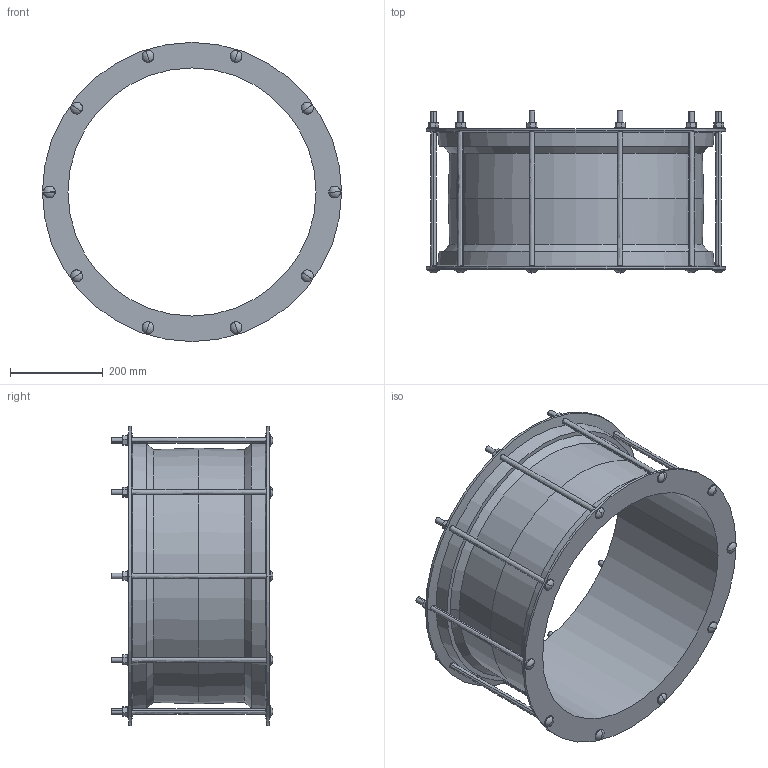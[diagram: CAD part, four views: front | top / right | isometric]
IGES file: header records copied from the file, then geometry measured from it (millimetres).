
Start section:  PTC IGES file: 515_532.igs
Global section: file name: 515_532.igs; native system: Creo Parametric by PTC Inc.; preprocessor: 2016130; author: mfairey; organization: Unknown; date: 20181218.141604; units: millimetre
Bounding box: 644 x 348 x 644 mm (x, y, z)
Surface area: 1504978 mm2 (no closed solid volume)
Topology: 0 solids, 0 shells, 216 faces, 1028 edges, 1008 vertices
Faces by surface type: revolution 122, bspline 94
